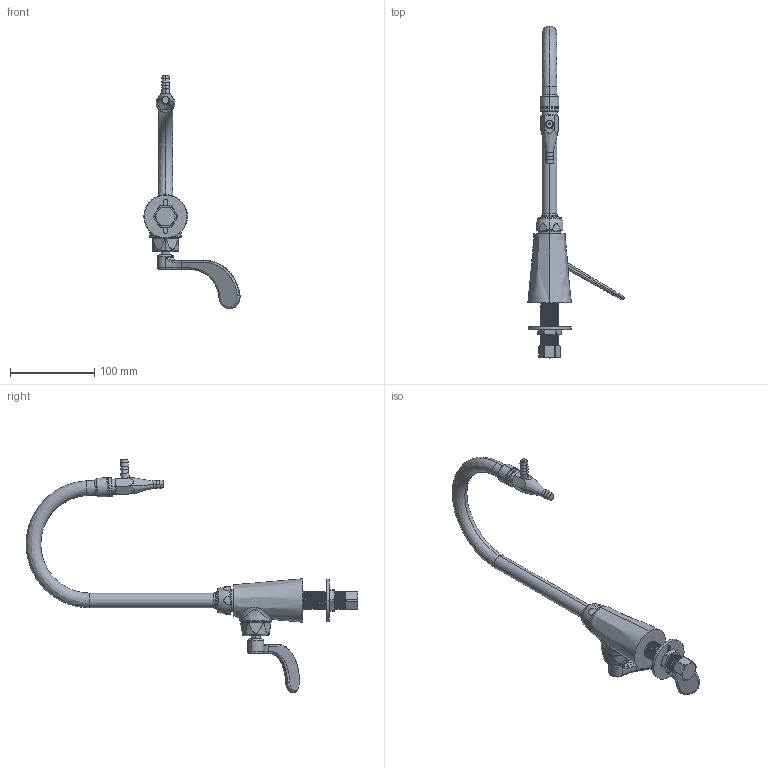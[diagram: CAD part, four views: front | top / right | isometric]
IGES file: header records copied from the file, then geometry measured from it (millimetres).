
Start section:  PTC IGES file: LWS3-B36-A.igs
Global section: file name: LWS3-B36-A.igs; native system: Creo Parametric by PTC Inc.; preprocessor: 2014500; author: usch_engrender; organization: Unknown; date: 20151204.142747; units: inch
Bounding box: 114.18 x 393.74 x 277.01 mm (x, y, z)
Volume: 317230.7 mm3; surface area: 63843.2 mm2
Topology: 1 solids, 4 shells, 340 faces, 853 edges, 539 vertices
Faces by surface type: revolution 229, bspline 111
